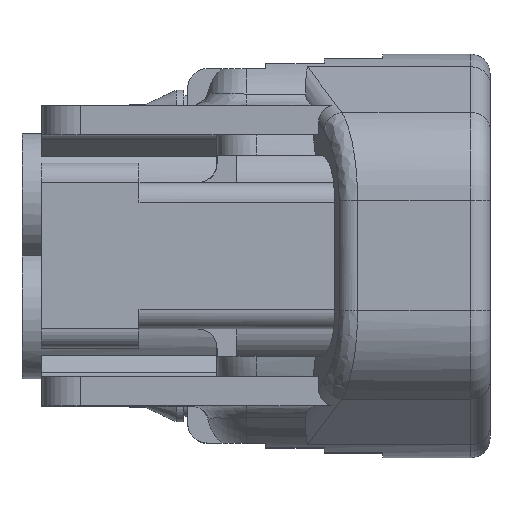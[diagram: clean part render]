
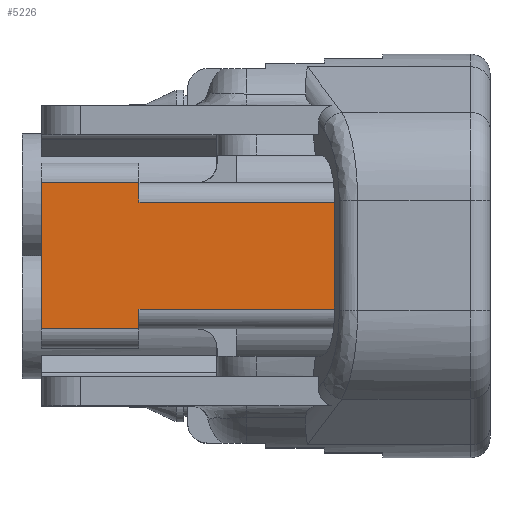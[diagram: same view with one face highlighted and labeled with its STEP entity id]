
A CAD part, top view. The second image highlights one B-rep face of the part: STEP entity #5226.
In plain terms, the highlighted planar face has unit normal (0, 0, 1).
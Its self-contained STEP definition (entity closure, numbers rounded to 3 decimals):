
#3908=CARTESIAN_POINT('Vertex',(-23.,-0.75,10.05)) ;
#3911=CARTESIAN_POINT('Line Origine',(-23.,3.,10.05)) ;
#3915=CARTESIAN_POINT('Vertex',(-23.,6.75,10.05)) ;
#4935=CARTESIAN_POINT('Vertex',(-18.,6.75,10.05)) ;
#4938=CARTESIAN_POINT('Line Origine',(-14.75,6.75,10.05)) ;
#4959=CARTESIAN_POINT('Vertex',(-18.,-0.75,10.05)) ;
#4962=CARTESIAN_POINT('Line Origine',(-14.75,-0.75,10.05)) ;
#5000=CARTESIAN_POINT('Line Origine',(-18.,6.25,10.05)) ;
#5004=CARTESIAN_POINT('Vertex',(-18.,5.75,10.05)) ;
#5042=CARTESIAN_POINT('Vertex',(-18.,0.25,10.05)) ;
#5045=CARTESIAN_POINT('Line Origine',(-18.,-0.25,10.05)) ;
#5179=CARTESIAN_POINT('Line Origine',(-12.25,5.75,10.05)) ;
#5183=CARTESIAN_POINT('Vertex',(-6.5,5.75,10.05)) ;
#5199=CARTESIAN_POINT('Axis2P3D Location',(-6.5,3.,10.05)) ;
#5204=CARTESIAN_POINT('Line Origine',(-12.25,0.25,10.05)) ;
#5208=CARTESIAN_POINT('Vertex',(-6.5,0.25,10.05)) ;
#5211=CARTESIAN_POINT('Line Origine',(-6.5,3.,10.05)) ;
#3912=DIRECTION('Vector Direction',(0.,1.,0.)) ;
#4939=DIRECTION('Vector Direction',(1.,0.,0.)) ;
#4963=DIRECTION('Vector Direction',(-1.,0.,0.)) ;
#5001=DIRECTION('Vector Direction',(0.,-1.,0.)) ;
#5046=DIRECTION('Vector Direction',(0.,-1.,0.)) ;
#5180=DIRECTION('Vector Direction',(-1.,0.,0.)) ;
#5200=DIRECTION('Axis2P3D Direction',(0.,0.,-1.)) ;
#5201=DIRECTION('Axis2P3D XDirection',(-1.,0.,0.)) ;
#5205=DIRECTION('Vector Direction',(-1.,0.,0.)) ;
#5212=DIRECTION('Vector Direction',(0.,1.,0.)) ;
#5202=AXIS2_PLACEMENT_3D('Plane Axis2P3D',#5199,#5200,#5201) ;
#5217=ORIENTED_EDGE('',*,*,#4942,.F.) ;
#5218=ORIENTED_EDGE('',*,*,#3917,.F.) ;
#5219=ORIENTED_EDGE('',*,*,#4966,.T.) ;
#5220=ORIENTED_EDGE('',*,*,#5049,.F.) ;
#5221=ORIENTED_EDGE('',*,*,#5210,.F.) ;
#5222=ORIENTED_EDGE('',*,*,#5215,.T.) ;
#5223=ORIENTED_EDGE('',*,*,#5185,.T.) ;
#5224=ORIENTED_EDGE('',*,*,#5006,.F.) ;
#3913=VECTOR('Line Direction',#3912,1.) ;
#4940=VECTOR('Line Direction',#4939,1.) ;
#4964=VECTOR('Line Direction',#4963,1.) ;
#5002=VECTOR('Line Direction',#5001,1.) ;
#5047=VECTOR('Line Direction',#5046,1.) ;
#5181=VECTOR('Line Direction',#5180,1.) ;
#5206=VECTOR('Line Direction',#5205,1.) ;
#5213=VECTOR('Line Direction',#5212,1.) ;
#5226=ADVANCED_FACE('\X2\FF8AFF9FFF70FF82\X0\ \X2\FF8EFF9EFF83FF9EFF68FF70\X0\',(#5225),#5203,.F.) ;
#3917=EDGE_CURVE('',#3909,#3916,#3914,.T.) ;
#4942=EDGE_CURVE('',#3916,#4936,#4941,.T.) ;
#4966=EDGE_CURVE('',#3909,#4960,#4965,.F.) ;
#5006=EDGE_CURVE('',#4936,#5005,#5003,.T.) ;
#5049=EDGE_CURVE('',#5043,#4960,#5048,.T.) ;
#5185=EDGE_CURVE('',#5184,#5005,#5182,.T.) ;
#5210=EDGE_CURVE('',#5209,#5043,#5207,.T.) ;
#5215=EDGE_CURVE('',#5209,#5184,#5214,.T.) ;
#5216=EDGE_LOOP('',(#5217,#5218,#5219,#5220,#5221,#5222,#5223,#5224)) ;
#5225=FACE_OUTER_BOUND('',#5216,.T.) ;
#3914=LINE('Line',#3911,#3913) ;
#4941=LINE('Line',#4938,#4940) ;
#4965=LINE('Line',#4962,#4964) ;
#5003=LINE('Line',#5000,#5002) ;
#5048=LINE('Line',#5045,#5047) ;
#5182=LINE('Line',#5179,#5181) ;
#5207=LINE('Line',#5204,#5206) ;
#5214=LINE('Line',#5211,#5213) ;
#5203=PLANE('',#5202) ;
#3909=VERTEX_POINT('',#3908) ;
#3916=VERTEX_POINT('',#3915) ;
#4936=VERTEX_POINT('',#4935) ;
#4960=VERTEX_POINT('',#4959) ;
#5005=VERTEX_POINT('',#5004) ;
#5043=VERTEX_POINT('',#5042) ;
#5184=VERTEX_POINT('',#5183) ;
#5209=VERTEX_POINT('',#5208) ;
